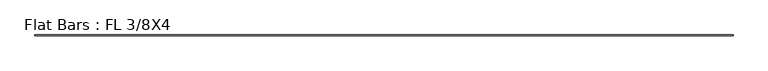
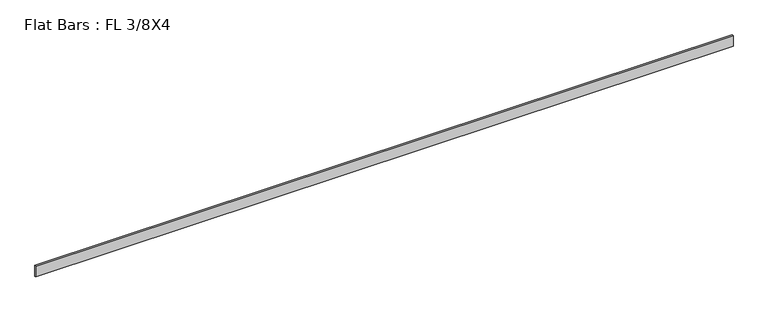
"""IFC4 building model written with IfcOpenShell, lengths in millimetres: member geometry, Flat Bars : FL 3/8X4."""

from ifc_helpers import new_model, si_unit, frame, origin, place, context, project, spatial, polyline, outline, extrude, source, transform, mapped, element, save


def flat_bars_fl_3_8x4_f1b121f7(model_context):
    return source(origin(), model_context, "Body", "SweptSolid", [
        extrude(outline(polyline([(-3212.3168384, -4.7625), (-3212.3168384, 4.7625), (2999.7675293, 4.7625), (2999.7675293, -4.7625), (-3212.3168384, -4.7625)])), frame((0.0, 0.0, -50.8), z_axis=(0.0, 0.0, 1.0), x_axis=(1.0, 0.0, 0.0)), (0.0, 0.0, 1.0), 101.6),
    ])


if __name__ == "__main__":
    model = new_model("IFC4")
    model_context = context("Model", 3, world=origin())
    ifc_project = project(units=[si_unit("LENGTHUNIT", "METRE", prefix="MILLI")], contexts=[model_context])
    site = spatial("IfcSite", under=ifc_project)
    building = spatial("IfcBuilding", under=site)
    placement = place(None, origin())
    flat_bars_fl_3_8x4_shape = flat_bars_fl_3_8x4_f1b121f7(model_context)
    element("IfcMember", 1, ObjectType="Flat Bars : FL 3/8X4", at=placement, inside=building, context=model_context, shape_type="MappedRepresentation", body=[
        mapped(flat_bars_fl_3_8x4_shape, transform((0.0, 0.0, 0.0), x_axis=(1.0, 0.0, 0.0), y_axis=(0.0, 1.0, 0.0), z_axis=(0.0, 0.0, 1.0))),
    ])
    save(model, "model.ifc")
